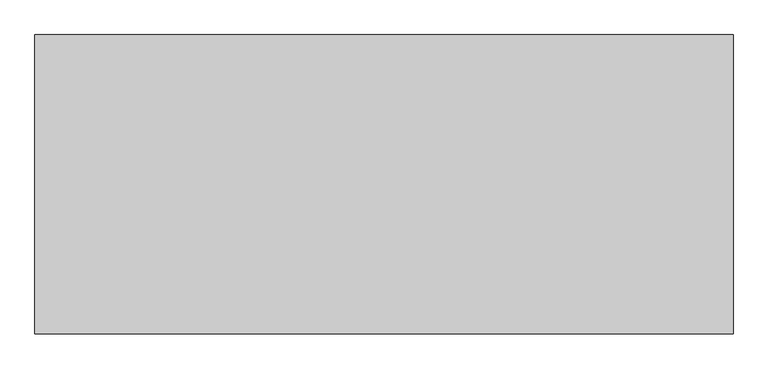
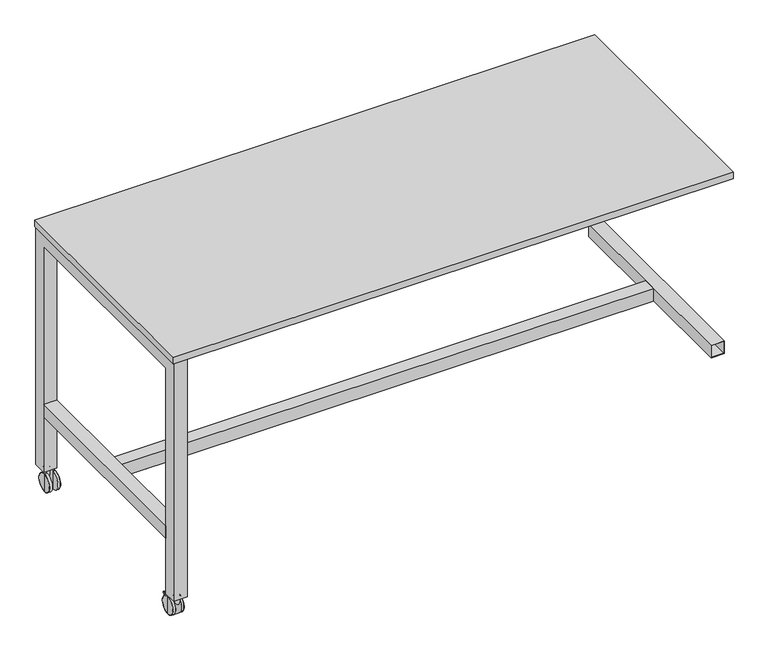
"""IFC4 building model written with IfcOpenShell, lengths in millimetres: furniture geometry, Tables with Castors : Tables with Castors."""

from ifc_helpers import new_model, si_unit, point, frame, frame_2d, origin, place, context, project, spatial, polyline, circle_curve, ellipse_curve, trimmed, segment, composite_curve, outline, extrude, faceted_brep, source, transform, mapped, element, save
from ifc_brep_helpers import plane_surface, cylinder_surface, revolved_surface, advanced_brep


def furniture_8d8db78f(model_context):
    return source(origin(), model_context, "Body", "SolidModel", [
        advanced_brep(
        [(-1027.5001378, 422.5000032, 104.1413359), (-1026.4999082, 422.5000032, 105.0000044), (-1018.5001058, 422.5000032, 105.0000044), (-1017.4998761, 422.5000032, 104.1413359), (-1027.5001378, 422.5000032, 84.9999988), (-1017.4998761, 422.5000032, 84.9999988), (-1029.5000157, 422.5000032, 84.9999988), (-1015.4999982, 422.5000032, 84.9999988), (-1029.5000157, 422.5000032, 80.0000042), (-1015.4999982, 422.5000032, 80.0000042), (-1032.3172355, 422.5000032, 80.0000042), (-1012.6827784, 422.5000032, 80.0000042), (-1033.2335088, 422.5000032, 79.083731), (-1011.7665052, 422.5000032, 79.083731), (-1033.2335088, 422.5000032, 47.275048), (-1011.7665052, 422.5000032, 47.275048), (-1022.500007, 422.5000032, 47.275048), (-1022.500007, 422.5000032, 105.0000044)],
        [
            (0, 1),
            (1, 2, circle_curve(frame((-1022.500007, 422.5000032, 105.0000044), z_axis=(0.0, 0.0, -1.0), x_axis=(1.0, 0.0, 0.0)), 3.9999012)),
            (2, 3),
            (3, 0, circle_curve(frame((-1022.500007, 422.5000032, 104.1413359), z_axis=(0.0, 0.0, 1.0), x_axis=(1.0, 0.0, 0.0)), 5.0001308)),
            (2, 1, circle_curve(frame((-1022.500007, 422.5000032, 105.0000044), z_axis=(0.0, 0.0, -1.0), x_axis=(1.0, 0.0, 0.0)), 3.9999012)),
            (0, 3, circle_curve(frame((-1022.500007, 422.5000032, 104.1413359), z_axis=(0.0, 0.0, 1.0), x_axis=(1.0, 0.0, 0.0)), 5.0001308)),
            (4, 0),
            (3, 5),
            (5, 4, circle_curve(frame((-1022.500007, 422.5000032, 84.9999988), z_axis=(0.0, 0.0, 1.0), x_axis=(1.0, 0.0, 0.0)), 5.0001308)),
            (4, 5, circle_curve(frame((-1022.500007, 422.5000032, 84.9999988), z_axis=(0.0, 0.0, 1.0), x_axis=(1.0, 0.0, 0.0)), 5.0001308)),
            (6, 4),
            (5, 7),
            (7, 6, circle_curve(frame((-1022.500007, 422.5000032, 84.9999988), z_axis=(0.0, 0.0, 1.0), x_axis=(1.0, 0.0, 0.0)), 7.0000088)),
            (6, 7, circle_curve(frame((-1022.500007, 422.5000032, 84.9999988), z_axis=(0.0, 0.0, 1.0), x_axis=(1.0, 0.0, 0.0)), 7.0000088)),
            (8, 6),
            (7, 9),
            (9, 8, circle_curve(frame((-1022.500007, 422.5000032, 80.0000042), z_axis=(0.0, 0.0, 1.0), x_axis=(1.0, 0.0, 0.0)), 7.0000088)),
            (8, 9, circle_curve(frame((-1022.500007, 422.5000032, 80.0000042), z_axis=(0.0, 0.0, 1.0), x_axis=(1.0, 0.0, 0.0)), 7.0000088)),
            (10, 8),
            (9, 11),
            (11, 10, circle_curve(frame((-1022.500007, 422.5000032, 80.0000042), z_axis=(0.0, 0.0, 1.0), x_axis=(1.0, 0.0, 0.0)), 9.8172285)),
            (10, 11, circle_curve(frame((-1022.500007, 422.5000032, 80.0000042), z_axis=(0.0, 0.0, 1.0), x_axis=(1.0, 0.0, 0.0)), 9.8172285)),
            (12, 10, circle_curve(frame((-1032.3172355, 422.5000032, 79.083731), z_axis=(0.0, 1.0, 0.0), x_axis=(1.0, 0.0, 0.0)), 0.9162733)),
            (11, 13, circle_curve(frame((-1012.6827784, 422.5000032, 79.083731), z_axis=(0.0, 1.0, 0.0), x_axis=(-1.0, 0.0, 0.0)), 0.9162733)),
            (13, 12, circle_curve(frame((-1022.500007, 422.5000032, 79.083731), z_axis=(0.0, 0.0, 1.0), x_axis=(1.0, 0.0, 0.0)), 10.7335018)),
            (12, 13, circle_curve(frame((-1022.500007, 422.5000032, 79.083731), z_axis=(0.0, 0.0, 1.0), x_axis=(1.0, 0.0, 0.0)), 10.7335018)),
            (14, 12),
            (13, 15),
            (15, 14, circle_curve(frame((-1022.500007, 422.5000032, 47.275048), z_axis=(0.0, 0.0, 1.0), x_axis=(1.0, 0.0, 0.0)), 10.7335018)),
            (14, 15, circle_curve(frame((-1022.500007, 422.5000032, 47.275048), z_axis=(0.0, 0.0, 1.0), x_axis=(1.0, 0.0, 0.0)), 10.7335018)),
            (16, 14),
            (15, 16),
            (1, 17),
            (17, 2),
        ],
        [
            revolved_surface(polyline([(-1018.5001058, 422.5000032, 105.0000044), (-1017.4998761, 422.5000032, 104.1413359)]), (-1022.500007, 422.5000032, 106.1065775), (0.0, 0.0, -1.0)),
            cylinder_surface(frame((-1022.500007, 422.5000032, 106.1065775), z_axis=(0.0, 0.0, -1.0), x_axis=(1.0, 0.0, 0.0)), 5.0001308),
            plane_surface(frame((-1022.500007, 422.5000032, 84.9999988), z_axis=(0.0, 0.0, 1.0), x_axis=(1.0, 0.0, 0.0))),
            cylinder_surface(frame((-1022.500007, 422.5000032, 106.1065775), z_axis=(0.0, 0.0, -1.0), x_axis=(1.0, 0.0, 0.0)), 7.0000088),
            plane_surface(frame((-1022.500007, 422.5000032, 80.0000042), z_axis=(0.0, 0.0, 1.0), x_axis=(1.0, 0.0, 0.0))),
            revolved_surface(trimmed(ellipse_curve(frame((-1012.6827784, 422.5000032, 79.083731), z_axis=(0.0, 1.0, 0.0), x_axis=(-1.0, 0.0, 0.0)), 0.9162733, 0.9162733), [point((-1012.6827784, 422.5000032, 80.0000042))], [point((-1011.7665052, 422.5000032, 79.083731))], True, "CARTESIAN"), (-1022.500007, 422.5000032, 106.1065775), (0.0, 0.0, -1.0)),
            cylinder_surface(frame((-1022.500007, 422.5000032, 106.1065775), z_axis=(0.0, 0.0, -1.0), x_axis=(1.0, 0.0, 0.0)), 10.7335018),
            plane_surface(frame((-1022.500007, 422.5000032, 47.275048), z_axis=(0.0, 0.0, -1.0), x_axis=(1.0, 0.0, 0.0))),
            plane_surface(frame((-1022.500007, 422.5000032, 105.0000044), z_axis=(0.0, 0.0, 1.0), x_axis=(1.0, 0.0, 0.0))),
        ],
        [
            (0, [[1, 2, 3, 4]]),
            (0, [[-3, 5, -1, 6]]),
            (1, [[7, -4, 8, 9]]),
            (1, [[-8, -6, -7, 10]]),
            (2, [[11, -9, 12, 13]]),
            (2, [[-12, -10, -11, 14]]),
            (3, [[15, -13, 16, 17]]),
            (3, [[-16, -14, -15, 18]]),
            (4, [[19, -17, 20, 21]]),
            (4, [[-20, -18, -19, 22]]),
            (5, [[23, -21, 24, 25]]),
            (5, [[-24, -22, -23, 26]]),
            (6, [[27, -25, 28, 29]]),
            (6, [[-28, -26, -27, 30]]),
            (7, [[31, -29, 32]]),
            (7, [[-32, -30, -31]]),
            (8, [[33, 34, -2]]),
            (8, [[-34, -33, -5]]),
        ],
    ),
        advanced_brep(
        [(-1001.4999806, 401.0474609, 1.0), (-1002.4999806, 401.0474609, 0.0), (-1002.4999806, 401.0474609, 70.0000014), (-1001.4999806, 401.0474609, 69.0000014), (-1001.4999806, 401.0474609, 35.0000007), (-1011.7665052, 401.0474609, 0.0), (-1011.7665052, 401.0474609, 35.0000007), (-1011.7665052, 401.0474609, 70.0000014)],
        [
            (0, 1, circle_curve(frame((-1002.4999806, 401.0474609, 1.0), z_axis=(0.0, 1.0, 0.0), x_axis=(-1.0, 0.0, 0.0)), 1.0)),
            (1, 2, circle_curve(frame((-1002.4999806, 401.0474609, 35.0000007), z_axis=(1.0, 0.0, 0.0), x_axis=(0.0, 0.0, 1.0)), 35.0000007)),
            (2, 3, circle_curve(frame((-1002.4999806, 401.0474609, 69.0000014), z_axis=(0.0, 1.0, 0.0), x_axis=(-1.0, 0.0, 0.0)), 1.0)),
            (3, 0, circle_curve(frame((-1001.4999806, 401.0474609, 35.0000007), z_axis=(-1.0, 0.0, 0.0), x_axis=(0.0, 0.0, 1.0)), 34.0000007)),
            (2, 1, circle_curve(frame((-1002.4999806, 401.0474609, 35.0000007), z_axis=(1.0, 0.0, 0.0), x_axis=(0.0, 0.0, 1.0)), 35.0000007)),
            (0, 3, circle_curve(frame((-1001.4999806, 401.0474609, 35.0000007), z_axis=(-1.0, 0.0, 0.0), x_axis=(0.0, 0.0, 1.0)), 34.0000007)),
            (4, 0),
            (3, 4),
            (5, 6),
            (6, 7),
            (7, 5, circle_curve(frame((-1011.7665052, 401.0474609, 35.0000007), z_axis=(-1.0, 0.0, 0.0), x_axis=(0.0, 0.0, 1.0)), 35.0000007)),
            (5, 7, circle_curve(frame((-1011.7665052, 401.0474609, 35.0000007), z_axis=(-1.0, 0.0, 0.0), x_axis=(0.0, 0.0, 1.0)), 35.0000007)),
            (1, 5),
            (7, 2),
        ],
        [
            revolved_surface(trimmed(ellipse_curve(frame((-1002.4999806, 401.0474609, 69.0000014), z_axis=(0.0, 1.0, 0.0), x_axis=(-1.0, 0.0, 0.0)), 1.0, 1.0), [point((-1002.4999806, 401.0474609, 70.0000014))], [point((-1001.4999806, 401.0474609, 69.0000014))], True, "CARTESIAN"), (-1011.7665052, 401.0474609, 35.0000007), (1.0, 0.0, 0.0)),
            plane_surface(frame((-1001.4999806, 401.0474609, 35.0000007), z_axis=(1.0, 0.0, 0.0), x_axis=(0.0, 0.0, 1.0))),
            plane_surface(frame((-1011.7665052, 401.0474609, 35.0000007), z_axis=(-1.0, 0.0, 0.0), x_axis=(0.0, 0.0, 1.0))),
            cylinder_surface(frame((-1011.7665052, 401.0474609, 35.0000007), z_axis=(1.0, 0.0, 0.0), x_axis=(0.0, 0.0, 1.0)), 35.0000007),
        ],
        [
            (0, [[1, 2, 3, 4]]),
            (0, [[-3, 5, -1, 6]]),
            (1, [[7, -4, 8]]),
            (1, [[-8, -6, -7]]),
            (2, [[9, 10, 11]]),
            (2, [[-10, -9, 12]]),
            (3, [[13, -11, 14, -2]]),
            (3, [[-14, -12, -13, -5]]),
        ],
    ),
        advanced_brep(
        [(-1033.2332181, 401.0474609, 0.0), (-1042.4997426, 401.0474609, 0.0), (-1042.4997426, 401.0474609, 70.0000014), (-1033.2332181, 401.0474609, 70.0000014), (-1033.2332181, 401.0474609, 35.0000007), (-1043.4997426, 401.0474609, 1.0), (-1043.4997426, 401.0474609, 35.0000007), (-1043.4997426, 401.0474609, 69.0000014)],
        [
            (0, 1),
            (1, 2, circle_curve(frame((-1042.4997426, 401.0474609, 35.0000007), z_axis=(1.0, 0.0, 0.0), x_axis=(0.0, 0.0, 1.0)), 35.0000007)),
            (2, 3),
            (3, 0, circle_curve(frame((-1033.2332181, 401.0474609, 35.0000007), z_axis=(-1.0, 0.0, 0.0), x_axis=(0.0, 0.0, 1.0)), 35.0000007)),
            (2, 1, circle_curve(frame((-1042.4997426, 401.0474609, 35.0000007), z_axis=(1.0, 0.0, 0.0), x_axis=(0.0, 0.0, 1.0)), 35.0000007)),
            (0, 3, circle_curve(frame((-1033.2332181, 401.0474609, 35.0000007), z_axis=(-1.0, 0.0, 0.0), x_axis=(0.0, 0.0, 1.0)), 35.0000007)),
            (4, 0),
            (3, 4),
            (5, 6),
            (6, 7),
            (7, 5, circle_curve(frame((-1043.4997426, 401.0474609, 35.0000007), z_axis=(-1.0, 0.0, 0.0), x_axis=(0.0, 0.0, 1.0)), 34.0000007)),
            (5, 7, circle_curve(frame((-1043.4997426, 401.0474609, 35.0000007), z_axis=(-1.0, 0.0, 0.0), x_axis=(0.0, 0.0, 1.0)), 34.0000007)),
            (1, 5, circle_curve(frame((-1042.4997426, 401.0474609, 1.0), z_axis=(0.0, 1.0, 0.0), x_axis=(1.0, 0.0, 0.0)), 1.0)),
            (7, 2, circle_curve(frame((-1042.4997426, 401.0474609, 69.0000014), z_axis=(0.0, 1.0, 0.0), x_axis=(1.0, 0.0, 0.0)), 1.0)),
        ],
        [
            cylinder_surface(frame((-1011.7665052, 401.0474609, 35.0000007), z_axis=(1.0, 0.0, 0.0), x_axis=(0.0, 0.0, 1.0)), 35.0000007),
            plane_surface(frame((-1033.2332181, 401.0474609, 35.0000007), z_axis=(1.0, 0.0, 0.0), x_axis=(0.0, 0.0, 1.0))),
            plane_surface(frame((-1043.4997426, 401.0474609, 35.0000007), z_axis=(-1.0, 0.0, 0.0), x_axis=(0.0, 0.0, 1.0))),
            revolved_surface(trimmed(ellipse_curve(frame((-1042.4997426, 401.0474609, 69.0000014), z_axis=(0.0, 1.0, 0.0), x_axis=(1.0, 0.0, 0.0)), 1.0, 1.0), [point((-1043.4997426, 401.0474609, 69.0000014))], [point((-1042.4997426, 401.0474609, 70.0000014))], True, "CARTESIAN"), (-1011.7665052, 401.0474609, 35.0000007), (1.0, 0.0, 0.0)),
        ],
        [
            (0, [[1, 2, 3, 4]]),
            (0, [[-3, 5, -1, 6]]),
            (1, [[7, -4, 8]]),
            (1, [[-8, -6, -7]]),
            (2, [[9, 10, 11]]),
            (2, [[-10, -9, 12]]),
            (3, [[13, -11, 14, -2]]),
            (3, [[-14, -12, -13, -5]]),
        ],
    ),
        extrude(outline(composite_curve([segment(polyline([(-357.9685066, 48.9081939), (-357.9685066, 27.7892248)]), True, "CONTINUOUS"), segment(trimmed(circle_curve(frame_2d((-362.6068348, 27.7892248)), 4.6383283), [point((-357.9685066, 27.7892248))], [point((-362.6068348, 23.1508966))], False, "CARTESIAN"), True, "CONTINUOUS"), segment(polyline([(-362.6068348, 23.1508966), (-368.1142136, 23.1508966)]), True, "CONTINUOUS"), segment(trimmed(circle_curve(frame_2d((-401.0474609, 35.0000007)), 35.0000007), [point((-368.1142136, 23.1508966))], [point((-367.1160325, 26.4175645))], True, "CARTESIAN"), True, "CONTINUOUS"), segment(polyline([(-367.1160325, 26.4175645), (-362.6016558, 26.4175645)]), True, "CONTINUOUS"), segment(trimmed(circle_curve(frame_2d((-362.6016558, 27.7839799)), 1.3664155), [point((-362.6016558, 26.4175645))], [point((-361.2352403, 27.7839799))], True, "CARTESIAN"), True, "CONTINUOUS"), segment(polyline([(-361.2352403, 27.7839799), (-361.2352403, 46.687017), (-357.9685066, 48.9081939)]), True, "CONTINUOUS")], self_intersect=False)), frame((-1025.7665227, 0.0, 0.0), z_axis=(1.0, 0.0, 0.0), x_axis=(0.0, 1.0, 0.0)), (0.0, 0.0, 1.0), 6.5333221),
        extrude(outline(composite_curve([segment(trimmed(circle_curve(frame_2d((-356.6210037, 57.203751)), 1.8309665), [point((-357.6505092, 58.7178702))], [point((-355.3263057, 58.4984306))], False, "CARTESIAN"), True, "CONTINUOUS"), segment(polyline([(-355.3263057, 58.4984306), (-353.0562119, 56.2283044)]), True, "CONTINUOUS"), segment(trimmed(circle_curve(frame_2d((-355.0166454, 54.267899)), 2.7724518), [point((-353.0562119, 56.2283044))], [point((-353.4577649, 51.9752192))], False, "CARTESIAN"), True, "CONTINUOUS"), segment(polyline([(-353.4577649, 51.9752192), (-366.9309416, 42.8142925)]), True, "CONTINUOUS"), segment(trimmed(circle_curve(frame_2d((-401.0474609, 35.0000007)), 35.0000007), [point((-366.9309416, 42.8142925))], [point((-369.6843508, 50.535617))], True, "CARTESIAN"), True, "CONTINUOUS"), segment(polyline([(-369.6843508, 50.535617), (-357.6505092, 58.7178702)]), True, "CONTINUOUS")], self_intersect=False)), frame((-1031.8333036, 0.0, 0.0), z_axis=(1.0, 0.0, 0.0), x_axis=(0.0, 1.0, 0.0)), (0.0, 0.0, 1.0), 18.6665932),
        extrude(outline(composite_curve([segment(trimmed(circle_curve(frame_2d((-401.0474609, 35.0000007)), 35.0000007), [point((-401.0474609, 70.0000014))], [point((-401.0474609, 0.0))], False, "CARTESIAN"), True, "CONTINUOUS"), segment(trimmed(circle_curve(frame_2d((-401.0474609, 35.0000007)), 35.0000007), [point((-401.0474609, 0.0))], [point((-401.0474609, 70.0000014))], False, "CARTESIAN"), True, "CONTINUOUS")], self_intersect=False)), frame((-1033.2332181, 0.0, 0.0), z_axis=(1.0, 0.0, 0.0), x_axis=(0.0, 1.0, 0.0)), (0.0, 0.0, 1.0), 21.466713),
        advanced_brep(
        [(-1027.5001378, -422.5000032, 104.1413359), (-1017.4998761, -422.5000032, 104.1413359), (-1018.5001058, -422.5000032, 105.0000044), (-1026.4999082, -422.5000032, 105.0000044), (-1027.5001378, -422.5000032, 84.9999988), (-1017.4998761, -422.5000032, 84.9999988), (-1029.5000157, -422.5000032, 84.9999988), (-1015.4999982, -422.5000032, 84.9999988), (-1029.5000157, -422.5000032, 80.0000042), (-1015.4999982, -422.5000032, 80.0000042), (-1032.3172355, -422.5000032, 80.0000042), (-1012.6827784, -422.5000032, 80.0000042), (-1033.2335088, -422.5000032, 79.083731), (-1011.7665052, -422.5000032, 79.083731), (-1033.2335088, -422.5000032, 47.275048), (-1011.7665052, -422.5000032, 47.275048), (-1022.500007, -422.5000032, 47.275048), (-1022.500007, -422.5000032, 105.0000044)],
        [
            (0, 1, circle_curve(frame((-1022.500007, -422.5000032, 104.1413359), z_axis=(0.0, 0.0, 1.0), x_axis=(1.0, 0.0, 0.0)), 5.0001308)),
            (1, 2),
            (2, 3, circle_curve(frame((-1022.500007, -422.5000032, 105.0000044), z_axis=(0.0, 0.0, -1.0), x_axis=(1.0, 0.0, 0.0)), 3.9999012)),
            (3, 0),
            (1, 0, circle_curve(frame((-1022.500007, -422.5000032, 104.1413359), z_axis=(0.0, 0.0, 1.0), x_axis=(1.0, 0.0, 0.0)), 5.0001308)),
            (3, 2, circle_curve(frame((-1022.500007, -422.5000032, 105.0000044), z_axis=(0.0, 0.0, -1.0), x_axis=(1.0, 0.0, 0.0)), 3.9999012)),
            (4, 5, circle_curve(frame((-1022.500007, -422.5000032, 84.9999988), z_axis=(0.0, 0.0, 1.0), x_axis=(1.0, 0.0, 0.0)), 5.0001308)),
            (5, 1),
            (0, 4),
            (5, 4, circle_curve(frame((-1022.500007, -422.5000032, 84.9999988), z_axis=(0.0, 0.0, 1.0), x_axis=(1.0, 0.0, 0.0)), 5.0001308)),
            (6, 7, circle_curve(frame((-1022.500007, -422.5000032, 84.9999988), z_axis=(0.0, 0.0, 1.0), x_axis=(1.0, 0.0, 0.0)), 7.0000088)),
            (7, 5),
            (4, 6),
            (7, 6, circle_curve(frame((-1022.500007, -422.5000032, 84.9999988), z_axis=(0.0, 0.0, 1.0), x_axis=(1.0, 0.0, 0.0)), 7.0000088)),
            (8, 9, circle_curve(frame((-1022.500007, -422.5000032, 80.0000042), z_axis=(0.0, 0.0, 1.0), x_axis=(1.0, 0.0, 0.0)), 7.0000088)),
            (9, 7),
            (6, 8),
            (9, 8, circle_curve(frame((-1022.500007, -422.5000032, 80.0000042), z_axis=(0.0, 0.0, 1.0), x_axis=(1.0, 0.0, 0.0)), 7.0000088)),
            (10, 11, circle_curve(frame((-1022.500007, -422.5000032, 80.0000042), z_axis=(0.0, 0.0, 1.0), x_axis=(1.0, 0.0, 0.0)), 9.8172285)),
            (11, 9),
            (8, 10),
            (11, 10, circle_curve(frame((-1022.500007, -422.5000032, 80.0000042), z_axis=(0.0, 0.0, 1.0), x_axis=(1.0, 0.0, 0.0)), 9.8172285)),
            (12, 13, circle_curve(frame((-1022.500007, -422.5000032, 79.083731), z_axis=(0.0, 0.0, 1.0), x_axis=(1.0, 0.0, 0.0)), 10.7335018)),
            (13, 11, circle_curve(frame((-1012.6827784, -422.5000032, 79.083731), z_axis=(0.0, -1.0, 0.0), x_axis=(-1.0, 0.0, 0.0)), 0.9162733)),
            (10, 12, circle_curve(frame((-1032.3172355, -422.5000032, 79.083731), z_axis=(0.0, -1.0, 0.0), x_axis=(1.0, 0.0, 0.0)), 0.9162733)),
            (13, 12, circle_curve(frame((-1022.500007, -422.5000032, 79.083731), z_axis=(0.0, 0.0, 1.0), x_axis=(1.0, 0.0, 0.0)), 10.7335018)),
            (14, 15, circle_curve(frame((-1022.500007, -422.5000032, 47.275048), z_axis=(0.0, 0.0, 1.0), x_axis=(1.0, 0.0, 0.0)), 10.7335018)),
            (15, 13),
            (12, 14),
            (15, 14, circle_curve(frame((-1022.500007, -422.5000032, 47.275048), z_axis=(0.0, 0.0, 1.0), x_axis=(1.0, 0.0, 0.0)), 10.7335018)),
            (16, 15),
            (14, 16),
            (2, 17),
            (17, 3),
        ],
        [
            revolved_surface(polyline([(-1018.5001058, -422.5000032, 105.0000044), (-1017.4998761, -422.5000032, 104.1413359)]), (-1022.500007, -422.5000032, 106.1065775), (0.0, 0.0, -1.0)),
            cylinder_surface(frame((-1022.500007, -422.5000032, 106.1065775), z_axis=(0.0, 0.0, -1.0), x_axis=(1.0, 0.0, 0.0)), 5.0001308),
            plane_surface(frame((-1022.500007, -422.5000032, 84.9999988), z_axis=(0.0, 0.0, 1.0), x_axis=(1.0, 0.0, 0.0))),
            cylinder_surface(frame((-1022.500007, -422.5000032, 106.1065775), z_axis=(0.0, 0.0, -1.0), x_axis=(1.0, 0.0, 0.0)), 7.0000088),
            plane_surface(frame((-1022.500007, -422.5000032, 80.0000042), z_axis=(0.0, 0.0, 1.0), x_axis=(1.0, 0.0, 0.0))),
            revolved_surface(trimmed(ellipse_curve(frame((-1012.6827784, -422.5000032, 79.083731), z_axis=(0.0, 1.0, 0.0), x_axis=(-1.0, 0.0, 0.0)), 0.9162733, 0.9162733), [point((-1012.6827784, -422.5000032, 80.0000042))], [point((-1011.7665052, -422.5000032, 79.083731))], True, "CARTESIAN"), (-1022.500007, -422.5000032, 106.1065775), (0.0, 0.0, -1.0)),
            cylinder_surface(frame((-1022.500007, -422.5000032, 106.1065775), z_axis=(0.0, 0.0, -1.0), x_axis=(1.0, 0.0, 0.0)), 10.7335018),
            plane_surface(frame((-1022.500007, -422.5000032, 47.275048), z_axis=(0.0, 0.0, -1.0), x_axis=(1.0, 0.0, 0.0))),
            plane_surface(frame((-1022.500007, -422.5000032, 105.0000044), z_axis=(0.0, 0.0, 1.0), x_axis=(1.0, 0.0, 0.0))),
        ],
        [
            (0, [[1, 2, 3, 4]]),
            (0, [[5, -4, 6, -2]]),
            (1, [[7, 8, -1, 9]]),
            (1, [[10, -9, -5, -8]]),
            (2, [[11, 12, -7, 13]]),
            (2, [[14, -13, -10, -12]]),
            (3, [[15, 16, -11, 17]]),
            (3, [[18, -17, -14, -16]]),
            (4, [[19, 20, -15, 21]]),
            (4, [[22, -21, -18, -20]]),
            (5, [[23, 24, -19, 25]]),
            (5, [[26, -25, -22, -24]]),
            (6, [[27, 28, -23, 29]]),
            (6, [[30, -29, -26, -28]]),
            (7, [[31, -27, 32]]),
            (7, [[-32, -30, -31]]),
            (8, [[-3, 33, 34]]),
            (8, [[-6, -34, -33]]),
        ],
    ),
        advanced_brep(
        [(-1001.4999806, -401.0474609, 1.0), (-1001.4999806, -401.0474609, 69.0000014), (-1002.4999806, -401.0474609, 70.0000014), (-1002.4999806, -401.0474609, 0.0), (-1001.4999806, -401.0474609, 35.0000007), (-1011.7665052, -401.0474609, 0.0), (-1011.7665052, -401.0474609, 70.0000014), (-1011.7665052, -401.0474609, 35.0000007)],
        [
            (0, 1, circle_curve(frame((-1001.4999806, -401.0474609, 35.0000007), z_axis=(-1.0, 0.0, 0.0), x_axis=(0.0, 0.0, 1.0)), 34.0000007)),
            (1, 2, circle_curve(frame((-1002.4999806, -401.0474609, 69.0000014), z_axis=(0.0, -1.0, 0.0), x_axis=(-1.0, 0.0, 0.0)), 1.0)),
            (2, 3, circle_curve(frame((-1002.4999806, -401.0474609, 35.0000007), z_axis=(1.0, 0.0, 0.0), x_axis=(0.0, 0.0, 1.0)), 35.0000007)),
            (3, 0, circle_curve(frame((-1002.4999806, -401.0474609, 1.0), z_axis=(0.0, -1.0, 0.0), x_axis=(-1.0, 0.0, 0.0)), 1.0)),
            (1, 0, circle_curve(frame((-1001.4999806, -401.0474609, 35.0000007), z_axis=(-1.0, 0.0, 0.0), x_axis=(0.0, 0.0, 1.0)), 34.0000007)),
            (3, 2, circle_curve(frame((-1002.4999806, -401.0474609, 35.0000007), z_axis=(1.0, 0.0, 0.0), x_axis=(0.0, 0.0, 1.0)), 35.0000007)),
            (4, 1),
            (0, 4),
            (5, 6, circle_curve(frame((-1011.7665052, -401.0474609, 35.0000007), z_axis=(-1.0, 0.0, 0.0), x_axis=(0.0, 0.0, 1.0)), 35.0000007)),
            (6, 7),
            (7, 5),
            (6, 5, circle_curve(frame((-1011.7665052, -401.0474609, 35.0000007), z_axis=(-1.0, 0.0, 0.0), x_axis=(0.0, 0.0, 1.0)), 35.0000007)),
            (2, 6),
            (5, 3),
        ],
        [
            revolved_surface(trimmed(ellipse_curve(frame((-1002.4999806, -401.0474609, 69.0000014), z_axis=(0.0, 1.0, 0.0), x_axis=(-1.0, 0.0, 0.0)), 1.0, 1.0), [point((-1002.4999806, -401.0474609, 70.0000014))], [point((-1001.4999806, -401.0474609, 69.0000014))], True, "CARTESIAN"), (-1011.7665052, -401.0474609, 35.0000007), (1.0, 0.0, 0.0)),
            plane_surface(frame((-1001.4999806, -401.0474609, 35.0000007), z_axis=(1.0, 0.0, 0.0), x_axis=(0.0, 0.0, 1.0))),
            plane_surface(frame((-1011.7665052, -401.0474609, 35.0000007), z_axis=(-1.0, 0.0, 0.0), x_axis=(0.0, 0.0, 1.0))),
            cylinder_surface(frame((-1011.7665052, -401.0474609, 35.0000007), z_axis=(1.0, 0.0, 0.0), x_axis=(0.0, 0.0, 1.0)), 35.0000007),
        ],
        [
            (0, [[1, 2, 3, 4]]),
            (0, [[5, -4, 6, -2]]),
            (1, [[7, -1, 8]]),
            (1, [[-8, -5, -7]]),
            (2, [[9, 10, 11]]),
            (2, [[12, -11, -10]]),
            (3, [[-3, 13, -9, 14]]),
            (3, [[-6, -14, -12, -13]]),
        ],
    ),
        advanced_brep(
        [(-1033.2332181, -401.0474609, 0.0), (-1033.2332181, -401.0474609, 70.0000014), (-1042.4997426, -401.0474609, 70.0000014), (-1042.4997426, -401.0474609, 0.0), (-1033.2332181, -401.0474609, 35.0000007), (-1043.4997426, -401.0474609, 1.0), (-1043.4997426, -401.0474609, 69.0000014), (-1043.4997426, -401.0474609, 35.0000007)],
        [
            (0, 1, circle_curve(frame((-1033.2332181, -401.0474609, 35.0000007), z_axis=(-1.0, 0.0, 0.0), x_axis=(0.0, 0.0, 1.0)), 35.0000007)),
            (1, 2),
            (2, 3, circle_curve(frame((-1042.4997426, -401.0474609, 35.0000007), z_axis=(1.0, 0.0, 0.0), x_axis=(0.0, 0.0, 1.0)), 35.0000007)),
            (3, 0),
            (1, 0, circle_curve(frame((-1033.2332181, -401.0474609, 35.0000007), z_axis=(-1.0, 0.0, 0.0), x_axis=(0.0, 0.0, 1.0)), 35.0000007)),
            (3, 2, circle_curve(frame((-1042.4997426, -401.0474609, 35.0000007), z_axis=(1.0, 0.0, 0.0), x_axis=(0.0, 0.0, 1.0)), 35.0000007)),
            (4, 1),
            (0, 4),
            (5, 6, circle_curve(frame((-1043.4997426, -401.0474609, 35.0000007), z_axis=(-1.0, 0.0, 0.0), x_axis=(0.0, 0.0, 1.0)), 34.0000007)),
            (6, 7),
            (7, 5),
            (6, 5, circle_curve(frame((-1043.4997426, -401.0474609, 35.0000007), z_axis=(-1.0, 0.0, 0.0), x_axis=(0.0, 0.0, 1.0)), 34.0000007)),
            (2, 6, circle_curve(frame((-1042.4997426, -401.0474609, 69.0000014), z_axis=(0.0, -1.0, 0.0), x_axis=(1.0, 0.0, 0.0)), 1.0)),
            (5, 3, circle_curve(frame((-1042.4997426, -401.0474609, 1.0), z_axis=(0.0, -1.0, 0.0), x_axis=(1.0, 0.0, 0.0)), 1.0)),
        ],
        [
            cylinder_surface(frame((-1011.7665052, -401.0474609, 35.0000007), z_axis=(1.0, 0.0, 0.0), x_axis=(0.0, 0.0, 1.0)), 35.0000007),
            plane_surface(frame((-1033.2332181, -401.0474609, 35.0000007), z_axis=(1.0, 0.0, 0.0), x_axis=(0.0, 0.0, 1.0))),
            plane_surface(frame((-1043.4997426, -401.0474609, 35.0000007), z_axis=(-1.0, 0.0, 0.0), x_axis=(0.0, 0.0, 1.0))),
            revolved_surface(trimmed(ellipse_curve(frame((-1042.4997426, -401.0474609, 69.0000014), z_axis=(0.0, 1.0, 0.0), x_axis=(1.0, 0.0, 0.0)), 1.0, 1.0), [point((-1043.4997426, -401.0474609, 69.0000014))], [point((-1042.4997426, -401.0474609, 70.0000014))], True, "CARTESIAN"), (-1011.7665052, -401.0474609, 35.0000007), (1.0, 0.0, 0.0)),
        ],
        [
            (0, [[1, 2, 3, 4]]),
            (0, [[5, -4, 6, -2]]),
            (1, [[7, -1, 8]]),
            (1, [[-8, -5, -7]]),
            (2, [[9, 10, 11]]),
            (2, [[12, -11, -10]]),
            (3, [[-3, 13, -9, 14]]),
            (3, [[-6, -14, -12, -13]]),
        ],
    ),
        extrude(outline(composite_curve([segment(polyline([(-997.5000059, -10.0000073), (-997.5000059, 10.0000073), (-977.5000094, 10.0000073)]), True, "CONTINUOUS"), segment(trimmed(circle_curve(frame_2d((-977.5000094, 0.0)), 10.0000073), [point((-977.5000094, 10.0000073))], [point((-977.5000094, -10.0000073))], False, "CARTESIAN"), True, "CONTINUOUS"), segment(polyline([(-977.5000094, -10.0000073), (-997.5000059, -10.0000073)]), True, "CONTINUOUS")], self_intersect=False), holes=[composite_curve([segment(trimmed(circle_curve(frame_2d((-977.5000094, 0.0)), 3.0000178), [point((-980.5000272, 0.0))], [point((-974.4999916, 0.0))], True, "CARTESIAN"), True, "CONTINUOUS"), segment(trimmed(circle_curve(frame_2d((-977.5000094, 0.0)), 3.0000178), [point((-974.4999916, 0.0))], [point((-980.5000272, 0.0))], True, "CARTESIAN"), True, "CONTINUOUS")], self_intersect=False)]), frame((0.0, 0.0, 1023.0000078), z_axis=(0.0, 0.0, 1.0), x_axis=(1.0, 0.0, 0.0)), (0.0, 0.0, 1.0), 2.0),
        extrude(outline(composite_curve([segment(polyline([(-997.5000059, -332.4999735), (-997.5000059, -312.4999588), (-977.5000094, -312.4999588)]), True, "CONTINUOUS"), segment(trimmed(circle_curve(frame_2d((-977.5000094, -322.4999661)), 10.0000073), [point((-977.5000094, -312.4999588))], [point((-977.5000094, -332.4999735))], False, "CARTESIAN"), True, "CONTINUOUS"), segment(polyline([(-977.5000094, -332.4999735), (-997.5000059, -332.4999735)]), True, "CONTINUOUS")], self_intersect=False), holes=[composite_curve([segment(trimmed(circle_curve(frame_2d((-977.5000094, -322.4999661)), 3.0000178), [point((-980.5000272, -322.4999661))], [point((-974.4999916, -322.4999661))], True, "CARTESIAN"), True, "CONTINUOUS"), segment(trimmed(circle_curve(frame_2d((-977.5000094, -322.4999661)), 3.0000178), [point((-974.4999916, -322.4999661))], [point((-980.5000272, -322.4999661))], True, "CARTESIAN"), True, "CONTINUOUS")], self_intersect=False)]), frame((0.0, 0.0, 1023.0000078), z_axis=(0.0, 0.0, 1.0), x_axis=(1.0, 0.0, 0.0)), (0.0, 0.0, 1.0), 2.0),
        extrude(outline(composite_curve([segment(polyline([(-997.5000059, 332.4999735), (-977.5000094, 332.4999735)]), True, "CONTINUOUS"), segment(trimmed(circle_curve(frame_2d((-977.5000094, 322.4999661)), 10.0000073), [point((-977.5000094, 332.4999735))], [point((-977.5000094, 312.4999588))], False, "CARTESIAN"), True, "CONTINUOUS"), segment(polyline([(-977.5000094, 312.4999588), (-997.5000059, 312.4999588), (-997.5000059, 332.4999735)]), True, "CONTINUOUS")], self_intersect=False), holes=[composite_curve([segment(trimmed(circle_curve(frame_2d((-977.5000094, 322.4999661)), 3.0000178), [point((-980.5000272, 322.4999661))], [point((-974.4999916, 322.4999661))], True, "CARTESIAN"), True, "CONTINUOUS"), segment(trimmed(circle_curve(frame_2d((-977.5000094, 322.4999661)), 3.0000178), [point((-974.4999916, 322.4999661))], [point((-980.5000272, 322.4999661))], True, "CARTESIAN"), True, "CONTINUOUS")], self_intersect=False)]), frame((0.0, 0.0, 1023.0000078), z_axis=(0.0, 0.0, 1.0), x_axis=(1.0, 0.0, 0.0)), (0.0, 0.0, 1.0), 2.0),
        extrude(outline(polyline([(-999.5000065, 399.5000263), (-1045.500008, 399.5000263), (-1045.500008, 445.4999802), (-999.5000065, 445.4999802), (-999.5000065, 399.5000263)]), holes=[composite_curve([segment(trimmed(circle_curve(frame_2d((-1022.500007, 422.5000023)), 5.4999988), [point((-1028.0000058, 422.5000023))], [point((-1017.0000082, 422.5000023))], True, "CARTESIAN"), True, "CONTINUOUS"), segment(trimmed(circle_curve(frame_2d((-1022.500007, 422.5000023)), 5.4999988), [point((-1017.0000082, 422.5000023))], [point((-1028.0000058, 422.5000023))], True, "CARTESIAN"), True, "CONTINUOUS")], self_intersect=False)]), frame((0.0, 0.0, 80.0), z_axis=(0.0, 0.0, 1.0), x_axis=(1.0, 0.0, 0.0)), (0.0, 0.0, 1.0), 1.9999994),
        extrude(outline(polyline([(-999.5000065, -399.5000263), (-999.5000065, -445.4999802), (-1045.500008, -445.4999802), (-1045.500008, -399.5000263), (-999.5000065, -399.5000263)]), holes=[composite_curve([segment(trimmed(circle_curve(frame_2d((-1022.500007, -422.5000023)), 5.4999988), [point((-1028.0000058, -422.5000023))], [point((-1017.0000082, -422.5000023))], True, "CARTESIAN"), True, "CONTINUOUS"), segment(trimmed(circle_curve(frame_2d((-1022.500007, -422.5000023)), 5.4999988), [point((-1017.0000082, -422.5000023))], [point((-1028.0000058, -422.5000023))], True, "CARTESIAN"), True, "CONTINUOUS")], self_intersect=False)]), frame((0.0, 0.0, 80.0), z_axis=(0.0, 0.0, 1.0), x_axis=(1.0, 0.0, 0.0)), (0.0, 0.0, 1.0), 1.9999994),
        faceted_brep([(-1047.500008, 397.5000031, 80.0), (-1047.500008, 447.5000034, 80.0), (-997.5000059, 447.5000034, 80.0), (-997.5000059, 397.5000031, 80.0), (-1045.500008, 399.5000263, 80.0), (-999.5000065, 399.5000263, 80.0), (-999.5000065, 445.4999802, 80.0), (-1045.500008, 445.4999802, 80.0), (-1047.500008, 397.5000031, 975.0000074), (-1047.500008, -397.5000031, 975.0000074), (-1047.500008, -397.5000031, 80.0), (-1047.500008, -447.5000034, 80.0), (-1047.500008, -447.5000034, 1025.0000078), (-1047.500008, 447.5000034, 1025.0000078), (-997.5000059, 447.5000034, 1025.0000078), (-997.5000059, -447.5000034, 1025.0000078), (-997.5000059, -447.5000034, 80.0), (-997.5000059, -397.5000031, 80.0), (-997.5000059, -397.5000031, 975.0000074), (-997.5000059, 397.5000031, 975.0000074), (-1045.500008, 399.5000263, 977.0000307), (-999.5000065, 399.5000263, 977.0000307), (-999.5000065, -399.5000263, 977.0000307), (-999.5000065, -399.5000263, 80.0), (-999.5000065, -445.4999802, 80.0), (-999.5000065, -445.4999802, 1022.9999846), (-999.5000065, 445.4999802, 1022.9999846), (-1045.500008, 445.4999802, 1022.9999846), (-1045.500008, -445.4999802, 1022.9999846), (-1045.500008, -445.4999802, 80.0), (-1045.500008, -399.5000263, 80.0), (-1045.500008, -399.5000263, 977.0000307)], [[[0, 1, 2, 3], [4, 5, 6, 7]], [[1, 0, 8, 9, 10, 11, 12, 13]], [[2, 1, 13, 14]], [[3, 2, 14, 15, 16, 17, 18, 19]], [[0, 3, 19, 8]], [[5, 4, 20, 21]], [[6, 5, 21, 22, 23, 24, 25, 26]], [[7, 6, 26, 27]], [[4, 7, 27, 28, 29, 30, 31, 20]], [[14, 13, 12, 15]], [[8, 19, 18, 9]], [[21, 20, 31, 22]], [[27, 26, 25, 28]], [[10, 17, 16, 11], [30, 29, 24, 23]], [[15, 12, 11, 16]], [[9, 18, 17, 10]], [[22, 31, 30, 23]], [[28, 25, 24, 29]]]),
        extrude(outline(composite_curve([segment(polyline([(902.5000141, 20.0000147), (1032.5000147, 20.0000147)]), True, "CONTINUOUS"), segment(trimmed(circle_curve(frame_2d((1032.5000147, 15.0000147)), 5.0), [point((1032.5000147, 20.0000147))], [point((1037.5000147, 15.0000147))], False, "CARTESIAN"), True, "CONTINUOUS"), segment(polyline([(1037.5000147, 15.0000147), (1037.5000147, -15.0000147)]), True, "CONTINUOUS"), segment(trimmed(circle_curve(frame_2d((1032.5000147, -15.0000147)), 5.0), [point((1037.5000147, -15.0000147))], [point((1032.5000147, -20.0000147))], False, "CARTESIAN"), True, "CONTINUOUS"), segment(polyline([(1032.5000147, -20.0000147), (902.5000141, -20.0000147)]), True, "CONTINUOUS"), segment(trimmed(circle_curve(frame_2d((902.5000141, -15.0000147)), 5.0), [point((902.5000141, -20.0000147))], [point((897.5000141, -15.0000147))], False, "CARTESIAN"), True, "CONTINUOUS"), segment(polyline([(897.5000141, -15.0000147), (897.5000141, 15.0000147)]), True, "CONTINUOUS"), segment(trimmed(circle_curve(frame_2d((902.5000141, 15.0000147)), 5.0), [point((897.5000141, 15.0000147))], [point((902.5000141, 20.0000147))], False, "CARTESIAN"), True, "CONTINUOUS")], self_intersect=False)), frame((0.0, 0.0, 295.9999921), z_axis=(0.0, 0.0, 1.0), x_axis=(1.0, 0.0, 0.0)), (0.0, 0.0, 1.0), 4.0000102),
        extrude(outline(polyline([(350.0000027, 1047.500008), (350.0000027, 997.5000059), (300.0000023, 997.5000059), (300.0000023, 1047.500008), (350.0000027, 1047.500008)]), holes=[polyline([(348.0000027, 1045.500008), (302.0000023, 1045.500008), (302.0000023, 999.5000059), (348.0000027, 999.5000059), (348.0000027, 1045.500008)])]), frame((0.0, -397.5000031, 0.0), z_axis=(0.0, 1.0, 0.0), x_axis=(0.0, 0.0, 1.0)), (0.0, 0.0, 1.0), 795.0000061),
        extrude(outline(polyline([(350.0000027, -1047.500008), (300.0000023, -1047.500008), (300.0000023, -997.5000059), (350.0000027, -997.5000059), (350.0000027, -1047.500008)]), holes=[polyline([(302.0000023, -999.5000059), (302.0000023, -1045.500008), (348.0000027, -1045.500008), (348.0000027, -999.5000059), (302.0000023, -999.5000059)])]), frame((0.0, -397.5000031, 0.0), z_axis=(0.0, 1.0, 0.0), x_axis=(0.0, 0.0, 1.0)), (0.0, 0.0, 1.0), 795.0000061),
        extrude(outline(polyline([(-25.0000002, 350.0000027), (25.0000002, 350.0000027), (25.0000002, 300.0000023), (-25.0000002, 300.0000023), (-25.0000002, 350.0000027)]), holes=[polyline([(-23.0000133, 348.0000157), (-23.0000133, 302.0000074), (23.0000133, 302.0000074), (23.0000133, 348.0000157), (-23.0000133, 348.0000157)])]), frame((-997.5000059, 0.0, 0.0), z_axis=(1.0, 0.0, 0.0), x_axis=(0.0, 1.0, 0.0)), (0.0, 0.0, 1.0), 1995.0000119),
        extrude(outline(polyline([(-1050.000008, 450.0000034), (1050.000008, 450.0000034), (1050.000008, -450.0000034), (-1050.000008, -450.0000034), (-1050.000008, 450.0000034)])), frame((0.0, 0.0, 1025.0000078), z_axis=(0.0, 0.0, 1.0), x_axis=(1.0, 0.0, 0.0)), (0.0, 0.0, 1.0), 25.0000002),
        extrude(outline(composite_curve([segment(trimmed(circle_curve(frame_2d((-905.0000069, 15.0000147)), 5.0), [point((-905.0000069, 20.0000147))], [point((-900.0000069, 15.0000147))], False, "CARTESIAN"), True, "CONTINUOUS"), segment(polyline([(-900.0000069, 15.0000147), (-900.0000069, -15.0000147)]), True, "CONTINUOUS"), segment(trimmed(circle_curve(frame_2d((-905.0000069, -15.0000147)), 5.0), [point((-900.0000069, -15.0000147))], [point((-905.0000069, -20.0000147))], False, "CARTESIAN"), True, "CONTINUOUS"), segment(polyline([(-905.0000069, -20.0000147), (-1035.0000075, -20.0000147)]), True, "CONTINUOUS"), segment(trimmed(circle_curve(frame_2d((-1035.0000075, -15.0000147)), 5.0), [point((-1035.0000075, -20.0000147))], [point((-1040.0000075, -15.0000147))], False, "CARTESIAN"), True, "CONTINUOUS"), segment(polyline([(-1040.0000075, -15.0000147), (-1040.0000075, 15.0000147)]), True, "CONTINUOUS"), segment(trimmed(circle_curve(frame_2d((-1035.0000075, 15.0000147)), 5.0), [point((-1040.0000075, 15.0000147))], [point((-1035.0000075, 20.0000147))], False, "CARTESIAN"), True, "CONTINUOUS"), segment(polyline([(-1035.0000075, 20.0000147), (-905.0000069, 20.0000147)]), True, "CONTINUOUS")], self_intersect=False)), frame((0.0, 0.0, 295.9999921), z_axis=(0.0, 0.0, 1.0), x_axis=(1.0, 0.0, 0.0)), (0.0, 0.0, 1.0), 4.0000102),
    ])


if __name__ == "__main__":
    model = new_model("IFC4")
    model_context = context("Model", 3, world=origin())
    ifc_project = project(units=[si_unit("LENGTHUNIT", "METRE", prefix="MILLI")], contexts=[model_context])
    site = spatial("IfcSite", under=ifc_project)
    building = spatial("IfcBuilding", under=site)
    placement = place(None, origin())
    furniture_shape = furniture_8d8db78f(model_context)
    element("IfcFurniture", 1, ObjectType="Tables with Castors : Tables with Castors", at=placement, inside=building, context=model_context, shape_type="MappedRepresentation", body=[
        mapped(furniture_shape, transform((0.0, 0.0, 0.0), x_axis=(1.0, 0.0, 0.0), y_axis=(0.0, 1.0, 0.0), z_axis=(0.0, 0.0, 1.0))),
    ])
    save(model, "model.ifc")
